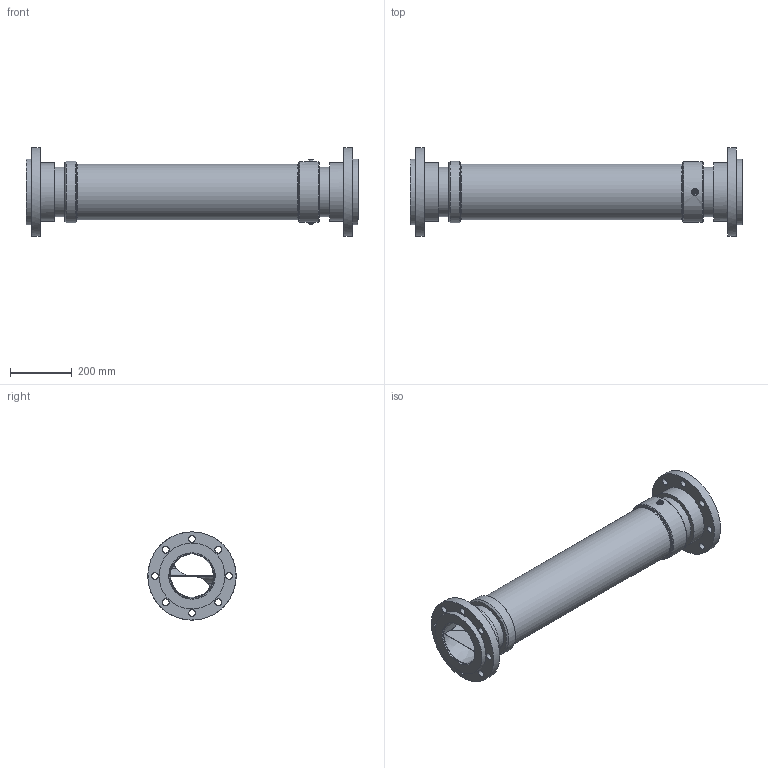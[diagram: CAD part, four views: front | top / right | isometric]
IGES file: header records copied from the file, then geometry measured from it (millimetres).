
Global section: file name: TU H-B 3000_Raccords a brides_V1.0_Simplifier; native system: Autodesk Inventor 2024; preprocessor: unknown; author: Massimo Maselli; date: 20241023.142650; units: millimetre
Bounding box: 1073 x 284.98 x 285 mm (x, y, z)
Volume: 9999721.1 mm3; surface area: 2591498.4 mm2
Topology: 12 solids, 12 shells, 997 faces, 2710 edges, 1834 vertices
Faces by surface type: bspline 997
